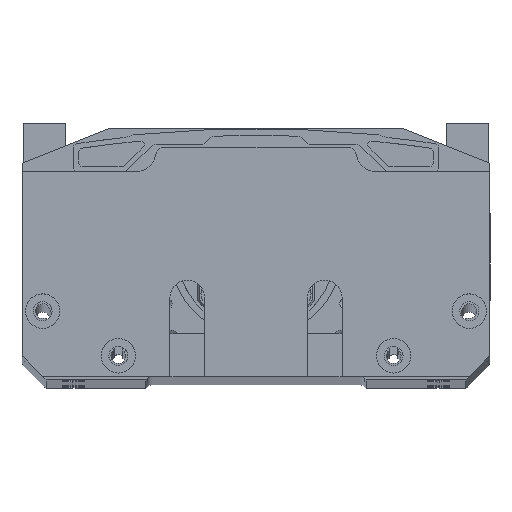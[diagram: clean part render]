
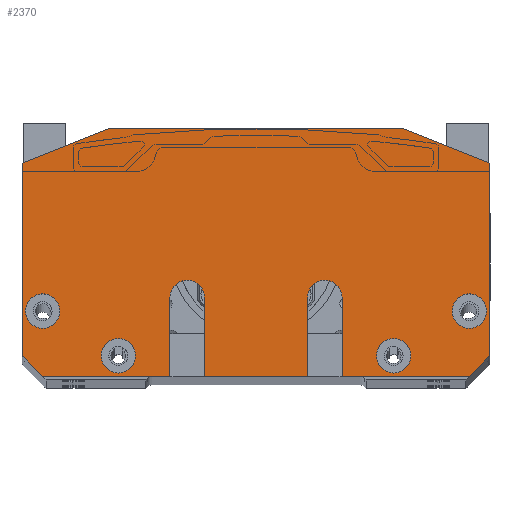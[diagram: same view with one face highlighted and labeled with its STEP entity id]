
A CAD part, top view. The second image highlights one B-rep face of the part: STEP entity #2370.
In plain terms, the highlighted planar face has unit normal (0, 0, 1).
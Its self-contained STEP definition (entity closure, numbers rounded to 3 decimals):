
#2370=ADVANCED_FACE('9',(#3475,#3476,#3477,#3478,#3479),#3051,.T.);
#3051=PLANE('',#19905);
#3475=FACE_BOUND('',#4515,.T.);
#3476=FACE_BOUND('',#4516,.T.);
#3477=FACE_BOUND('',#4517,.T.);
#3478=FACE_BOUND('',#4518,.T.);
#3479=FACE_BOUND('',#4519,.T.);
#4515=EDGE_LOOP('',(#9192,#9193,#9194,#9195,#9196,#9197,#9198,#9199,#9200,
#9201,#9202,#9203,#9204,#9205,#9206,#9207));
#4516=EDGE_LOOP('',(#9208));
#4517=EDGE_LOOP('',(#9209));
#4518=EDGE_LOOP('',(#9210));
#4519=EDGE_LOOP('',(#9211));
#5755=CIRCLE('',#19864,5.);
#5757=CIRCLE('',#19869,5.);
#5775=CIRCLE('',#19901,5.);
#5776=CIRCLE('',#19902,5.);
#5777=CIRCLE('',#19903,5.);
#5778=CIRCLE('',#19904,5.);
#9192=ORIENTED_EDGE('',*,*,#15148,.T.);
#9193=ORIENTED_EDGE('',*,*,#15150,.T.);
#9194=ORIENTED_EDGE('',*,*,#15144,.T.);
#9195=ORIENTED_EDGE('',*,*,#14250,.F.);
#9196=ORIENTED_EDGE('',*,*,#15156,.T.);
#9197=ORIENTED_EDGE('',*,*,#15158,.T.);
#9198=ORIENTED_EDGE('',*,*,#15152,.T.);
#9199=ORIENTED_EDGE('',*,*,#14247,.F.);
#9200=ORIENTED_EDGE('',*,*,#14264,.T.);
#9201=ORIENTED_EDGE('',*,*,#14290,.F.);
#9202=ORIENTED_EDGE('',*,*,#15167,.T.);
#9203=ORIENTED_EDGE('',*,*,#15189,.F.);
#9204=ORIENTED_EDGE('',*,*,#15170,.T.);
#9205=ORIENTED_EDGE('',*,*,#14192,.F.);
#9206=ORIENTED_EDGE('',*,*,#14235,.T.);
#9207=ORIENTED_EDGE('',*,*,#14253,.F.);
#9208=ORIENTED_EDGE('',*,*,#15190,.F.);
#9209=ORIENTED_EDGE('',*,*,#15191,.F.);
#9210=ORIENTED_EDGE('',*,*,#15192,.F.);
#9211=ORIENTED_EDGE('',*,*,#15193,.F.);
#12143=VERTEX_POINT('',#28829);
#12144=VERTEX_POINT('',#28831);
#12172=VERTEX_POINT('',#28910);
#12178=VERTEX_POINT('',#28931);
#12179=VERTEX_POINT('',#28933);
#12180=VERTEX_POINT('',#28936);
#12181=VERTEX_POINT('',#28938);
#12182=VERTEX_POINT('',#28941);
#12189=VERTEX_POINT('',#28962);
#12211=VERTEX_POINT('',#29012);
#12738=VERTEX_POINT('',#32557);
#12740=VERTEX_POINT('',#32563);
#12742=VERTEX_POINT('',#32572);
#12744=VERTEX_POINT('',#32578);
#12753=VERTEX_POINT('',#32603);
#12755=VERTEX_POINT('',#32609);
#12765=VERTEX_POINT('',#32649);
#12766=VERTEX_POINT('',#32651);
#12767=VERTEX_POINT('',#32653);
#12768=VERTEX_POINT('',#32655);
#14192=EDGE_CURVE('',#12143,#12144,#16395,.T.);
#14235=EDGE_CURVE('',#12143,#12172,#16428,.T.);
#14247=EDGE_CURVE('',#12178,#12179,#16439,.T.);
#14250=EDGE_CURVE('',#12180,#12181,#16442,.T.);
#14253=EDGE_CURVE('',#12182,#12172,#16445,.T.);
#14264=EDGE_CURVE('',#12178,#12189,#16455,.T.);
#14290=EDGE_CURVE('',#12211,#12189,#16479,.T.);
#15144=EDGE_CURVE('',#12738,#12181,#16894,.T.);
#15148=EDGE_CURVE('',#12182,#12740,#16898,.T.);
#15150=EDGE_CURVE('',#12740,#12738,#5755,.T.);
#15152=EDGE_CURVE('',#12742,#12179,#16900,.T.);
#15156=EDGE_CURVE('',#12180,#12744,#16904,.T.);
#15158=EDGE_CURVE('',#12744,#12742,#5757,.T.);
#15167=EDGE_CURVE('',#12211,#12753,#16909,.T.);
#15170=EDGE_CURVE('',#12755,#12144,#16912,.T.);
#15189=EDGE_CURVE('',#12755,#12753,#16918,.T.);
#15190=EDGE_CURVE('',#12765,#12765,#5775,.T.);
#15191=EDGE_CURVE('',#12766,#12766,#5776,.T.);
#15192=EDGE_CURVE('',#12767,#12767,#5777,.T.);
#15193=EDGE_CURVE('',#12768,#12768,#5778,.T.);
#16395=LINE('',#28830,#17745);
#16428=LINE('',#28911,#17778);
#16439=LINE('',#28932,#17789);
#16442=LINE('',#28937,#17792);
#16445=LINE('',#28942,#17795);
#16455=LINE('',#28963,#17805);
#16479=LINE('',#29013,#17829);
#16894=LINE('',#32556,#18244);
#16898=LINE('',#32564,#18248);
#16900=LINE('',#32571,#18250);
#16904=LINE('',#32579,#18254);
#16909=LINE('',#32602,#18259);
#16912=LINE('',#32608,#18262);
#16918=LINE('',#32647,#18268);
#17745=VECTOR('',#21961,1.);
#17778=VECTOR('',#22032,1.);
#17789=VECTOR('',#22051,1.);
#17792=VECTOR('',#22054,1.);
#17795=VECTOR('',#22057,1.);
#17805=VECTOR('',#22075,1.);
#17829=VECTOR('',#22107,1.);
#18244=VECTOR('',#23854,1.);
#18248=VECTOR('',#23860,1.);
#18250=VECTOR('',#23870,1.);
#18254=VECTOR('',#23876,1.);
#18259=VECTOR('',#23901,1.);
#18262=VECTOR('',#23906,1.);
#18268=VECTOR('',#23958,1.);
#19864=AXIS2_PLACEMENT_3D('',#32567,#23865,#23866);
#19869=AXIS2_PLACEMENT_3D('',#32582,#23881,#23882);
#19901=AXIS2_PLACEMENT_3D('',#32648,#23959,#23960);
#19902=AXIS2_PLACEMENT_3D('',#32650,#23961,#23962);
#19903=AXIS2_PLACEMENT_3D('',#32652,#23963,#23964);
#19904=AXIS2_PLACEMENT_3D('',#32654,#23965,#23966);
#19905=AXIS2_PLACEMENT_3D('',#32656,#23967,#23968);
#21961=DIRECTION('',(0.,1.,0.));
#22032=DIRECTION('',(0.707,-0.707,0.));
#22051=DIRECTION('',(-1.,0.,0.));
#22054=DIRECTION('',(-1.,0.,0.));
#22057=DIRECTION('',(-1.,0.,0.));
#22075=DIRECTION('',(0.707,0.707,0.));
#22107=DIRECTION('',(0.,-1.,0.));
#23854=DIRECTION('',(0.,-1.,0.));
#23860=DIRECTION('',(0.,1.,0.));
#23865=DIRECTION('',(0.,0.,-1.));
#23866=DIRECTION('',(1.,0.,0.));
#23870=DIRECTION('',(0.,-1.,0.));
#23876=DIRECTION('',(0.,1.,0.));
#23881=DIRECTION('',(0.,0.,-1.));
#23882=DIRECTION('',(-1.,0.,0.));
#23901=DIRECTION('',(-0.928,0.371,0.));
#23906=DIRECTION('',(-0.928,-0.371,0.));
#23958=DIRECTION('',(1.,0.,0.));
#23959=DIRECTION('',(0.,0.,1.));
#23960=DIRECTION('',(1.,0.,0.));
#23961=DIRECTION('',(0.,0.,1.));
#23962=DIRECTION('',(1.,0.,0.));
#23963=DIRECTION('',(0.,0.,1.));
#23964=DIRECTION('',(1.,0.,0.));
#23965=DIRECTION('',(0.,0.,1.));
#23966=DIRECTION('',(1.,0.,0.));
#23967=DIRECTION('',(0.,0.,1.));
#23968=DIRECTION('',(-1.,0.,0.));
#28829=CARTESIAN_POINT('',(-68.,6.,382.));
#28830=CARTESIAN_POINT('',(-68.,0.,382.));
#28831=CARTESIAN_POINT('',(-68.,62.,382.));
#28910=CARTESIAN_POINT('',(-62.,0.,382.));
#28911=CARTESIAN_POINT('',(-49.,-13.,382.));
#28931=CARTESIAN_POINT('',(62.,0.,382.));
#28932=CARTESIAN_POINT('',(68.,0.,382.));
#28933=CARTESIAN_POINT('',(25.,0.,382.));
#28936=CARTESIAN_POINT('',(15.,0.,382.));
#28937=CARTESIAN_POINT('',(68.,0.,382.));
#28938=CARTESIAN_POINT('',(-15.,0.,382.));
#28941=CARTESIAN_POINT('',(-25.,0.,382.));
#28942=CARTESIAN_POINT('',(68.,0.,382.));
#28962=CARTESIAN_POINT('',(68.,6.,382.));
#28963=CARTESIAN_POINT('',(49.,-13.,382.));
#29012=CARTESIAN_POINT('',(68.,62.,382.));
#29013=CARTESIAN_POINT('',(68.,0.,382.));
#32556=CARTESIAN_POINT('',(-15.,23.,382.));
#32557=CARTESIAN_POINT('',(-15.,23.,382.));
#32563=CARTESIAN_POINT('',(-25.,23.,382.));
#32564=CARTESIAN_POINT('',(-25.,23.,382.));
#32567=CARTESIAN_POINT('',(-20.,23.,382.));
#32571=CARTESIAN_POINT('',(25.,23.,382.));
#32572=CARTESIAN_POINT('',(25.,23.,382.));
#32578=CARTESIAN_POINT('',(15.,23.,382.));
#32579=CARTESIAN_POINT('',(15.,23.,382.));
#32582=CARTESIAN_POINT('',(20.,23.,382.));
#32602=CARTESIAN_POINT('',(18.345,81.862,382.));
#32603=CARTESIAN_POINT('',(43.,72.,382.));
#32608=CARTESIAN_POINT('',(-18.345,81.862,382.));
#32609=CARTESIAN_POINT('',(-43.,72.,382.));
#32647=CARTESIAN_POINT('',(68.,72.,382.));
#32648=CARTESIAN_POINT('',(-62.,19.,382.));
#32649=CARTESIAN_POINT('',(-57.,19.,382.));
#32650=CARTESIAN_POINT('',(62.,19.,382.));
#32651=CARTESIAN_POINT('',(67.,19.,382.));
#32652=CARTESIAN_POINT('',(-40.,6.,382.));
#32653=CARTESIAN_POINT('',(-35.,6.,382.));
#32654=CARTESIAN_POINT('',(40.,6.,382.));
#32655=CARTESIAN_POINT('',(45.,6.,382.));
#32656=CARTESIAN_POINT('',(0.,36.,382.));
